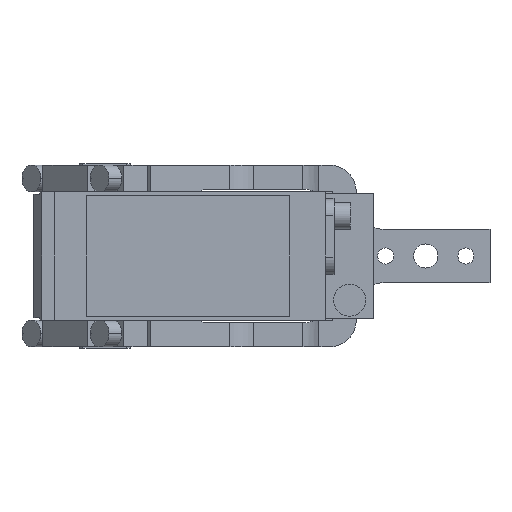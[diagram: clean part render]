
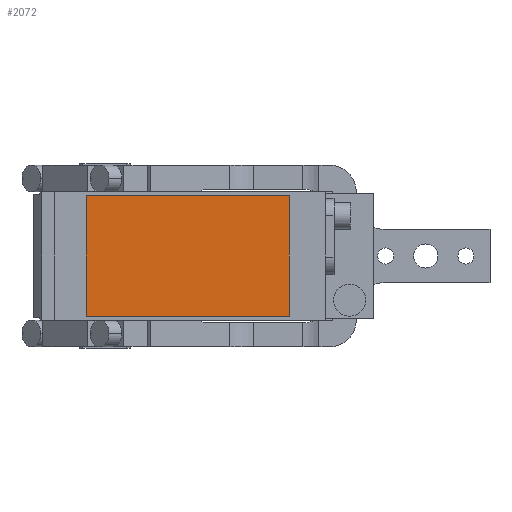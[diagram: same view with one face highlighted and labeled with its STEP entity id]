
A CAD part, front view. The second image highlights one B-rep face of the part: STEP entity #2072.
In plain terms, the highlighted planar face has unit normal (0, -1, 0).
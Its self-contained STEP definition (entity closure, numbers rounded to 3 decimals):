
#590 = EDGE_CURVE ( 'NONE', #9078, #8185, #5003, .T. ) ;
#750 = EDGE_LOOP ( 'NONE', ( #1698, #3450, #1169, #3822 ) ) ;
#813 = LINE ( 'NONE', #12499, #6355 ) ;
#937 = CARTESIAN_POINT ( 'NONE',  ( 69., -280.5, -22.5 ) ) ;
#948 = DIRECTION ( 'NONE',  ( 0., 0., -1. ) ) ;
#952 = LINE ( 'NONE', #4126, #6594 ) ;
#976 = FACE_OUTER_BOUND ( 'NONE', #750, .T. ) ;
#1169 = ORIENTED_EDGE ( 'NONE', *, *, #590, .T. ) ;
#1243 = CARTESIAN_POINT ( 'NONE',  ( -7., -280.5, -22.5 ) ) ;
#1561 = CARTESIAN_POINT ( 'NONE',  ( 69., -280.5, 22.5 ) ) ;
#1698 = ORIENTED_EDGE ( 'NONE', *, *, #4382, .T. ) ;
#2039 = DIRECTION ( 'NONE',  ( 0., -1., 0. ) ) ;
#2072 = ADVANCED_FACE ( 'NONE', ( #976 ), #7369, .T. ) ;
#3070 = VERTEX_POINT ( 'NONE', #1243 ) ;
#3109 = CARTESIAN_POINT ( 'NONE',  ( 0., -280.5, 0. ) ) ;
#3402 = CARTESIAN_POINT ( 'NONE',  ( -7., -280.5, 22.5 ) ) ;
#3450 = ORIENTED_EDGE ( 'NONE', *, *, #13524, .T. ) ;
#3822 = ORIENTED_EDGE ( 'NONE', *, *, #8604, .T. ) ;
#4126 = CARTESIAN_POINT ( 'NONE',  ( -7., -280.5, 22.5 ) ) ;
#4382 = EDGE_CURVE ( 'NONE', #7998, #3070, #813, .T. ) ;
#4721 = DIRECTION ( 'NONE',  ( 0., 0., 1. ) ) ;
#5003 = LINE ( 'NONE', #1561, #13943 ) ;
#6298 = DIRECTION ( 'NONE',  ( 0., 0., -1. ) ) ;
#6355 = VECTOR ( 'NONE', #948, 1000. ) ;
#6594 = VECTOR ( 'NONE', #12637, 1000. ) ;
#7369 = PLANE ( 'NONE',  #8955 ) ;
#7521 = CARTESIAN_POINT ( 'NONE',  ( 69., -280.5, 22.5 ) ) ;
#7998 = VERTEX_POINT ( 'NONE', #3402 ) ;
#8142 = LINE ( 'NONE', #9339, #12843 ) ;
#8185 = VERTEX_POINT ( 'NONE', #7521 ) ;
#8604 = EDGE_CURVE ( 'NONE', #8185, #7998, #952, .T. ) ;
#8955 = AXIS2_PLACEMENT_3D ( 'NONE', #3109, #2039, #6298 ) ;
#9078 = VERTEX_POINT ( 'NONE', #937 ) ;
#9339 = CARTESIAN_POINT ( 'NONE',  ( -7., -280.5, -22.5 ) ) ;
#12499 = CARTESIAN_POINT ( 'NONE',  ( -7., -280.5, 22.5 ) ) ;
#12637 = DIRECTION ( 'NONE',  ( -1., 0., 0. ) ) ;
#12843 = VECTOR ( 'NONE', #13638, 1000. ) ;
#13524 = EDGE_CURVE ( 'NONE', #3070, #9078, #8142, .T. ) ;
#13638 = DIRECTION ( 'NONE',  ( 1., 0., 0. ) ) ;
#13943 = VECTOR ( 'NONE', #4721, 1000. ) ;
